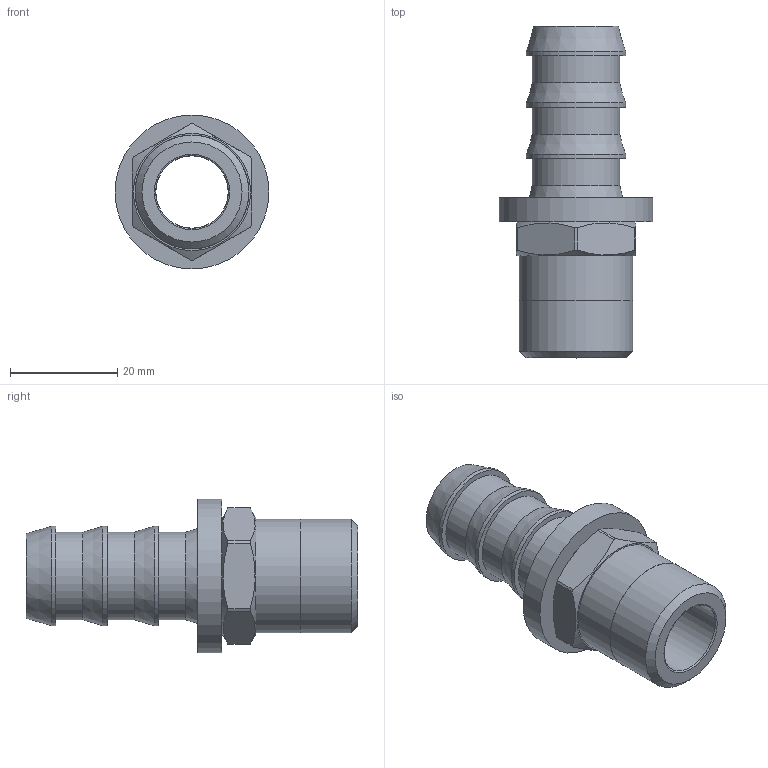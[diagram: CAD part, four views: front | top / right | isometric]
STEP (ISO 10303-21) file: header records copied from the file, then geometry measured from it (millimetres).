
FILE_DESCRIPTION(/* description */ (''),/* implementation_level */ '2;1');
FILE_NAME(/* name */ 'C:/Users/drich/Desktop/PLM-10-08 v1.step',/* time_stamp */ '2020-02-02T14:47:57-06:00',/* author */ (''),/* organization */ (''),/* preprocessor_version */ 'ST-DEVELOPER v18',/* originating_system */ 'Autodesk Translation Framework v8.12.0.6',/* authorisation */ '');
FILE_SCHEMA (('AUTOMOTIVE_DESIGN { 1 0 10303 214 3 1 1 }'));
Length unit declared in the file: inch
Products named in the file (3): PLM-10-08; -10 BARB ONLY; FW-13
Assembly tree (2 placements, depth 2):
  PLM-10-08
    -10 BARB ONLY
    FW-13
Bounding box: 28.7 x 61.9 x 28.7 mm (x, y, z)
Volume: 9690 mm3; surface area: 8688.8 mm2
Topology: 3 solids, 3 shells, 49 faces, 130 edges, 94 vertices
Faces by surface type: cylinder 21, plane 19, cone 8, torus 1
Full cylindrical faces by diameter (mm): 13.487 x1, 13.538 x1, 16.383 x3, 17.272 x1, 18.161 x1, 18.542 x4, 21.209 x1, 21.26 x1, 26.162 x1, 28.702 x1
Entity records: 1705 total; most frequent: DIRECTION 309, CARTESIAN_POINT 302, ORIENTED_EDGE 260, AXIS2_PLACEMENT_3D 137, EDGE_CURVE 130, VERTEX_POINT 94, CIRCLE 83, EDGE_LOOP 62
